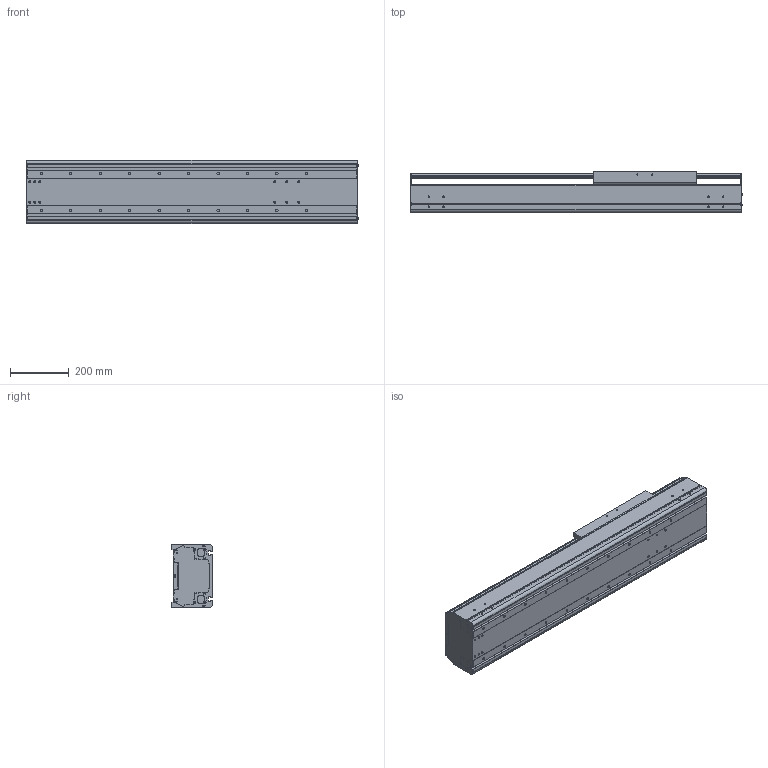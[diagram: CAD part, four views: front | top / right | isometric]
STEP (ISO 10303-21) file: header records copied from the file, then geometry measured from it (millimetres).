
FILE_DESCRIPTION((''),'2;1');
FILE_NAME('BE60J-ST-L_B-55_IGS_PRT','2017-06-18T',(' '),(''),'PRO/ENGINEER BY PARAMETRIC TECHNOLOGY CORPORATION, 2015030','PRO/ENGINEER BY PARAMETRIC TECHNOLOGY CORPORATION, 2015030','');
FILE_SCHEMA(('CONFIG_CONTROL_DESIGN'));
Length unit declared in the file: millimetre
Products named in the file (1): BE60J-ST-L_B-55_IGS_PRT
Bounding box: 1127.4 x 140 x 214 mm (x, y, z)
Volume: 9485385.8 mm3; surface area: 2491509.2 mm2
Topology: 2 solids, 32 shells, 1113 faces, 2963 edges, 1906 vertices
Faces by surface type: plane 521, cylinder 484, cone 60, torus 24, sphere 24
Entity records: 34989 total; most frequent: CARTESIAN_POINT 6596, DIRECTION 6074, ORIENTED_EDGE 5696, EDGE_CURVE 2904, AXIS2_PLACEMENT_3D 2174, VERTEX_POINT 1904, VECTOR 1726, LINE 1726
